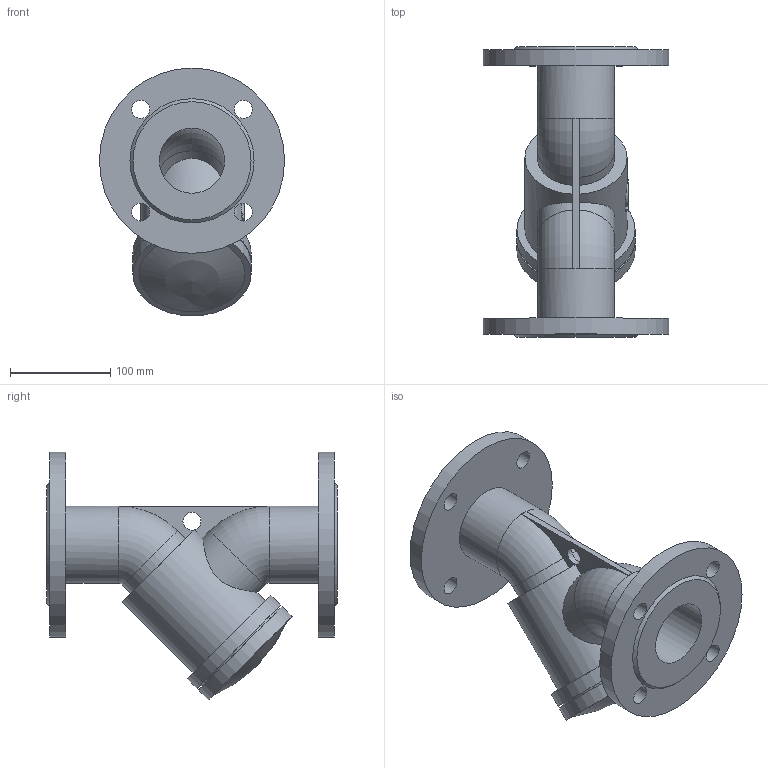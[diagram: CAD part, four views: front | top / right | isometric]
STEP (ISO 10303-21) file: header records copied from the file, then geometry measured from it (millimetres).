
FILE_DESCRIPTION(('STEP AP203'), '1');
FILE_NAME('Ôèëüòð ñåò÷àòûé ôëàíöåâûé 021Y.Z DN65 PN10_PN16', '', ('UNSPECIFIED'), ('UNSPECIFIED'), 'ASCON STEP Converter 1.6', 'ASCON Math Kernel', '');
FILE_SCHEMA(('CONFIG_CONTROL_DESIGN'));
Length unit declared in the file: millimetre
Bounding box: 185 x 290 x 247.5 mm (x, y, z)
Volume: 2237377.3 mm3; surface area: 281362.1 mm2
Topology: 1 solids, 1 shells, 68 faces, 154 edges, 98 vertices
Faces by surface type: cylinder 31, plane 30, torus 4, cone 2, sphere 1
Full cylindrical faces by diameter (mm): 18 x9, 65 x4, 77 x2, 102 x1, 108 x1, 118 x2, 185 x2
Entity records: 3304 total; most frequent: CARTESIAN_POINT 1226, DIRECTION 324, ORIENTED_EDGE 254, AXIS2_PLACEMENT_3D 140, EDGE_CURVE 127, EDGE_LOOP 122, VERTEX_POINT 97, FACE_BOUND 76
